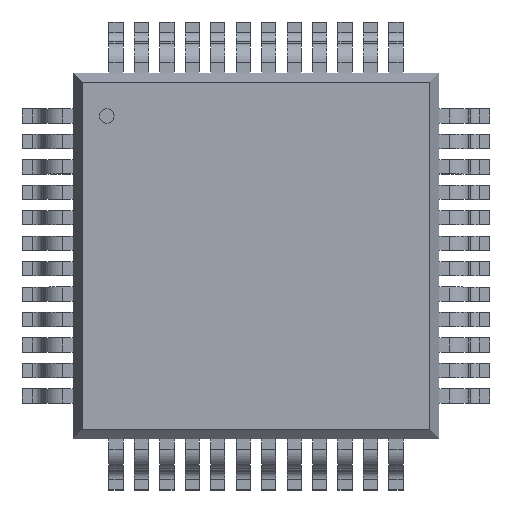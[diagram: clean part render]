
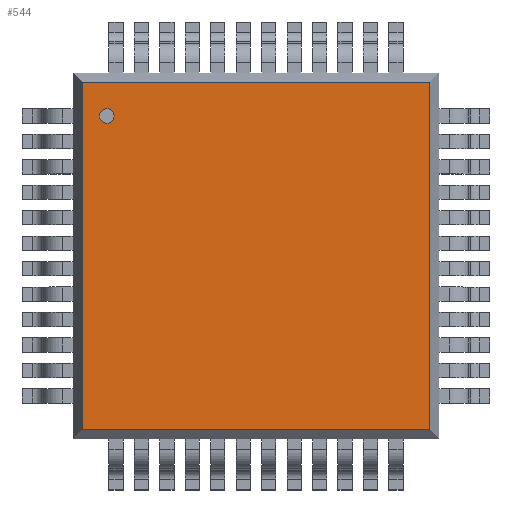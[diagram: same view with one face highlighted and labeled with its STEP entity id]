
A CAD part, top view. The second image highlights one B-rep face of the part: STEP entity #544.
In plain terms, the highlighted planar face has unit normal (0, 0, 1).
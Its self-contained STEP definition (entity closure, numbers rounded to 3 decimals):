
#544=ADVANCED_FACE('',(#550),#545,.T.);
#545=PLANE('',#546);
#546=AXIS2_PLACEMENT_3D('',#547,#548,#549);
#547=CARTESIAN_POINT('',(-3.416,-3.416,1.194));
#548=DIRECTION('',(0.0,0.0,1.0));
#549=DIRECTION('',(0.,1.,0.));
#550=FACE_OUTER_BOUND('',#551,.T.);
#551=EDGE_LOOP('',(#552,#562,#572,#582));
#555=CARTESIAN_POINT('',(3.416,-3.416,1.194));
#554=VERTEX_POINT('',#555);
#557=CARTESIAN_POINT('',(-3.416,-3.416,1.194));
#556=VERTEX_POINT('',#557);
#553=EDGE_CURVE('',#554,#556,#558,.T.);
#558=LINE('',#555,#560);
#560=VECTOR('',#561,6.833);
#561=DIRECTION('',(-1.0,0.0,0.0));
#552=ORIENTED_EDGE('',*,*,#553,.F.);
#565=CARTESIAN_POINT('',(3.416,3.416,1.194));
#564=VERTEX_POINT('',#565);
#563=EDGE_CURVE('',#564,#554,#568,.T.);
#568=LINE('',#565,#570);
#570=VECTOR('',#571,6.833);
#571=DIRECTION('',(0.0,-1.0,0.0));
#562=ORIENTED_EDGE('',*,*,#563,.F.);
#575=CARTESIAN_POINT('',(-3.416,3.416,1.194));
#574=VERTEX_POINT('',#575);
#573=EDGE_CURVE('',#574,#564,#578,.T.);
#578=LINE('',#575,#580);
#580=VECTOR('',#581,6.833);
#581=DIRECTION('',(1.0,0.0,0.0));
#572=ORIENTED_EDGE('',*,*,#573,.F.);
#583=EDGE_CURVE('',#556,#574,#588,.T.);
#588=LINE('',#557,#590);
#590=VECTOR('',#591,6.833);
#591=DIRECTION('',(0.0,1.0,0.0));
#582=ORIENTED_EDGE('',*,*,#583,.F.);
